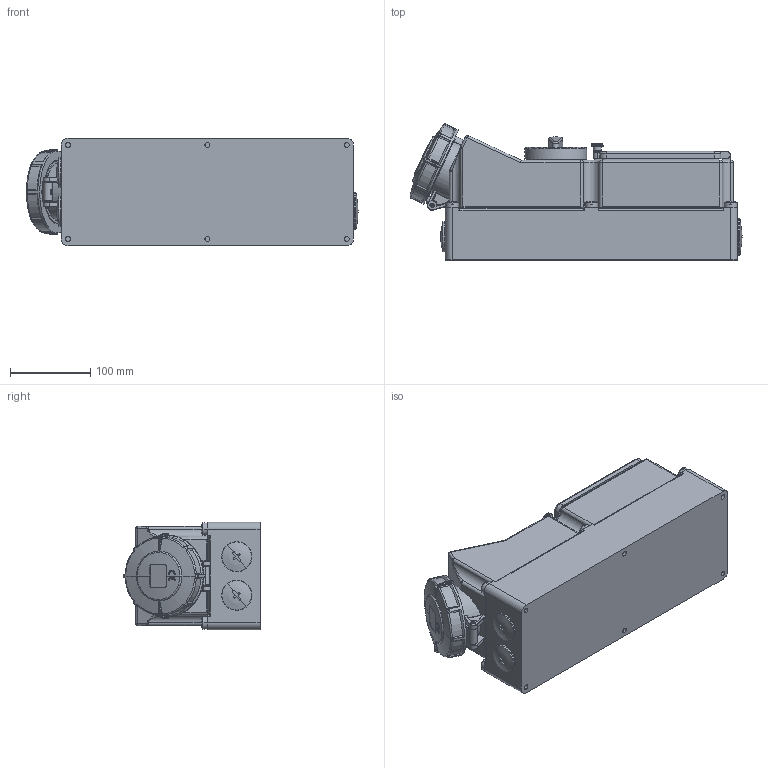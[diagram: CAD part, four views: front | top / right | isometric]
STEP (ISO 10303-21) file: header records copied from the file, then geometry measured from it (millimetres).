
FILE_DESCRIPTION((''),'2;1');
FILE_NAME('1114818_ASM_SW0001','2018-01-18T',('gisse'),('MENNEKES'),'PRO/ENGINEER BY PARAMETRIC TECHNOLOGY CORPORATION, 2015440','PRO/ENGINEER BY PARAMETRIC TECHNOLOGY CORPORATION, 2015440','');
FILE_SCHEMA(('AUTOMOTIVE_DESIGN { 1 0 10303 214 1 1 1 1 }'));
Products named in the file (1): 1114818_ASM_SW0001
Bounding box: 413.7 x 169.55 x 134 mm (x, y, z)
Volume: 6394952.5 mm3; surface area: 267146.4 mm2
Topology: 1 solids, 3 shells, 1517 faces, 4121 edges, 2637 vertices
Faces by surface type: plane 658, cylinder 301, cone 228, bspline 195, torus 106, sphere 28, extrusion 1
Entity records: 91689 total; most frequent: CARTESIAN_POINT 25061, ORIENTED_EDGE 8240, DIRECTION 6662, PRESENTATION_STYLE_ASSIGNMENT 5620, STYLED_ITEM 4122, CURVE_STYLE 4121, EDGE_CURVE 4120, FILL_AREA_STYLE_COLOUR 2997
